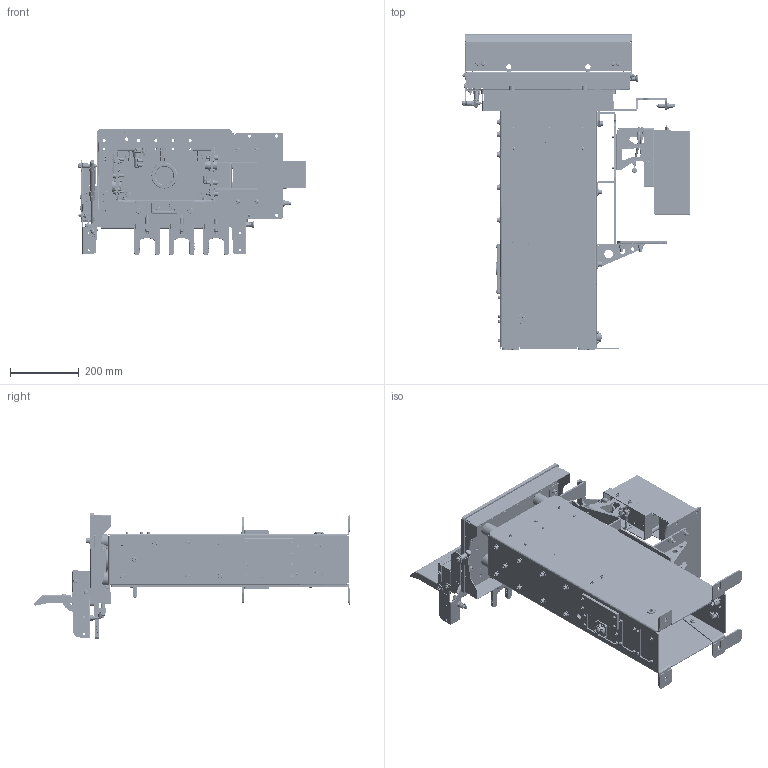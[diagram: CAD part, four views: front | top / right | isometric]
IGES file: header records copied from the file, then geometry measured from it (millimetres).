
Start section:  PTC IGES file: bh0024.igs
Global section: file name: bh0024.igs; native system: Creo Parametric by Parametric Technology Corporation; preprocessor: 2016100; author: Licht.Sebastian; organization: Unknown; date: 20180829.082135; units: millimetre
Bounding box: 662.5 x 918.79 x 365 mm (x, y, z)
Volume: 6643461.2 mm3; surface area: 2965330 mm2
Topology: 5 solids, 14 shells, 11426 faces, 28083 edges, 17429 vertices
Faces by surface type: revolution 5953, bspline 5473
